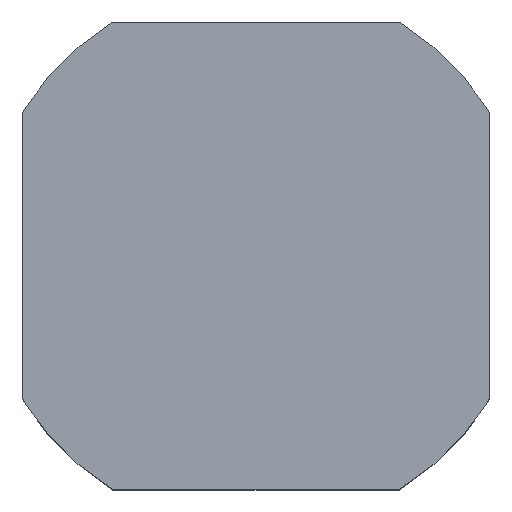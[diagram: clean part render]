
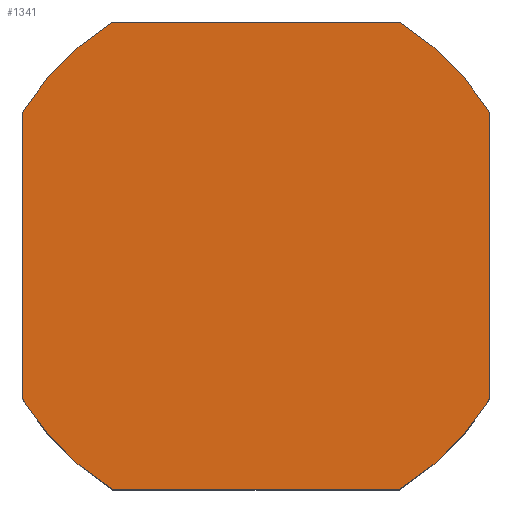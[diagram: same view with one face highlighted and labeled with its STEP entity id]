
A CAD part, top view. The second image highlights one B-rep face of the part: STEP entity #1341.
In plain terms, the highlighted planar face has unit normal (0, 0, 1).
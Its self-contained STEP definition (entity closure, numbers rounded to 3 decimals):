
#106=LINE($,#2174,#210);
#109=LINE($,#2182,#213);
#112=LINE($,#2190,#216);
#115=LINE($,#2198,#219);
#210=VECTOR($,#1815,33.693);
#213=VECTOR($,#1824,33.693);
#216=VECTOR($,#1833,33.693);
#219=VECTOR($,#1842,33.693);
#282=PLANE($,#1477);
#404=FACE_OUTER_BOUND($,#526,.T.);
#526=EDGE_LOOP($,(#1150,#1151,#1152,#1153,#1154,#1155,#1156,#1157));
#574=CIRCLE($,#1467,32.25);
#575=CIRCLE($,#1470,32.25);
#576=CIRCLE($,#1473,32.25);
#577=CIRCLE($,#1476,32.25);
#685=VERTEX_POINT($,#2171);
#686=VERTEX_POINT($,#2173);
#687=VERTEX_POINT($,#2177);
#688=VERTEX_POINT($,#2181);
#689=VERTEX_POINT($,#2185);
#690=VERTEX_POINT($,#2189);
#691=VERTEX_POINT($,#2193);
#692=VERTEX_POINT($,#2197);
#833=EDGE_CURVE($,#686,#685,#106,.T.);
#835=EDGE_CURVE($,#687,#686,#574,.T.);
#837=EDGE_CURVE($,#688,#687,#109,.T.);
#839=EDGE_CURVE($,#689,#688,#575,.T.);
#841=EDGE_CURVE($,#690,#689,#112,.T.);
#843=EDGE_CURVE($,#691,#690,#576,.T.);
#845=EDGE_CURVE($,#692,#691,#115,.T.);
#847=EDGE_CURVE($,#685,#692,#577,.T.);
#1150=ORIENTED_EDGE($,*,*,#847,.T.);
#1151=ORIENTED_EDGE($,*,*,#845,.T.);
#1152=ORIENTED_EDGE($,*,*,#843,.T.);
#1153=ORIENTED_EDGE($,*,*,#841,.T.);
#1154=ORIENTED_EDGE($,*,*,#839,.T.);
#1155=ORIENTED_EDGE($,*,*,#837,.T.);
#1156=ORIENTED_EDGE($,*,*,#835,.T.);
#1157=ORIENTED_EDGE($,*,*,#833,.T.);
#1341=ADVANCED_FACE($,(#404),#282,.T.);
#1467=AXIS2_PLACEMENT_3D($,#2178,#1819,#1820);
#1470=AXIS2_PLACEMENT_3D($,#2186,#1828,#1829);
#1473=AXIS2_PLACEMENT_3D($,#2194,#1837,#1838);
#1476=AXIS2_PLACEMENT_3D($,#2201,#1846,#1847);
#1477=AXIS2_PLACEMENT_3D($,#2202,#1848,#1849);
#1815=DIRECTION($,(0.,1.,0.));
#1819=DIRECTION('center_axis',(0.,0.,1.));
#1820=DIRECTION('ref_axis',(-0.522,0.853,0.));
#1824=DIRECTION($,(1.,0.,0.));
#1828=DIRECTION('center_axis',(0.,0.,1.));
#1829=DIRECTION('ref_axis',(0.853,0.522,0.));
#1833=DIRECTION($,(0.,-1.,0.));
#1837=DIRECTION('center_axis',(0.,0.,1.));
#1838=DIRECTION('ref_axis',(0.522,-0.853,0.));
#1842=DIRECTION($,(-1.,0.,0.));
#1846=DIRECTION('center_axis',(0.,0.,1.));
#1847=DIRECTION('ref_axis',(-0.853,-0.522,0.));
#1848=DIRECTION('center_axis',(0.,0.,1.));
#1849=DIRECTION('ref_axis',(1.,0.,0.));
#2171=CARTESIAN_POINT('',(27.5,16.847,18.));
#2173=CARTESIAN_POINT('',(27.5,-16.847,18.));
#2174=CARTESIAN_POINT($,(27.5,16.847,18.));
#2177=CARTESIAN_POINT('',(16.847,-27.5,18.));
#2178=CARTESIAN_POINT('Origin',(0.,0.,18.));
#2181=CARTESIAN_POINT('',(-16.847,-27.5,18.));
#2182=CARTESIAN_POINT($,(16.847,-27.5,18.));
#2185=CARTESIAN_POINT('',(-27.5,-16.847,18.));
#2186=CARTESIAN_POINT('Origin',(0.,0.,18.));
#2189=CARTESIAN_POINT('',(-27.5,16.847,18.));
#2190=CARTESIAN_POINT($,(-27.5,-16.847,18.));
#2193=CARTESIAN_POINT('',(-16.847,27.5,18.));
#2194=CARTESIAN_POINT('Origin',(0.,0.,18.));
#2197=CARTESIAN_POINT('',(16.847,27.5,18.));
#2198=CARTESIAN_POINT($,(-16.847,27.5,18.));
#2201=CARTESIAN_POINT('Origin',(0.,0.,18.));
#2202=CARTESIAN_POINT('Origin',(0.,0.,18.));
